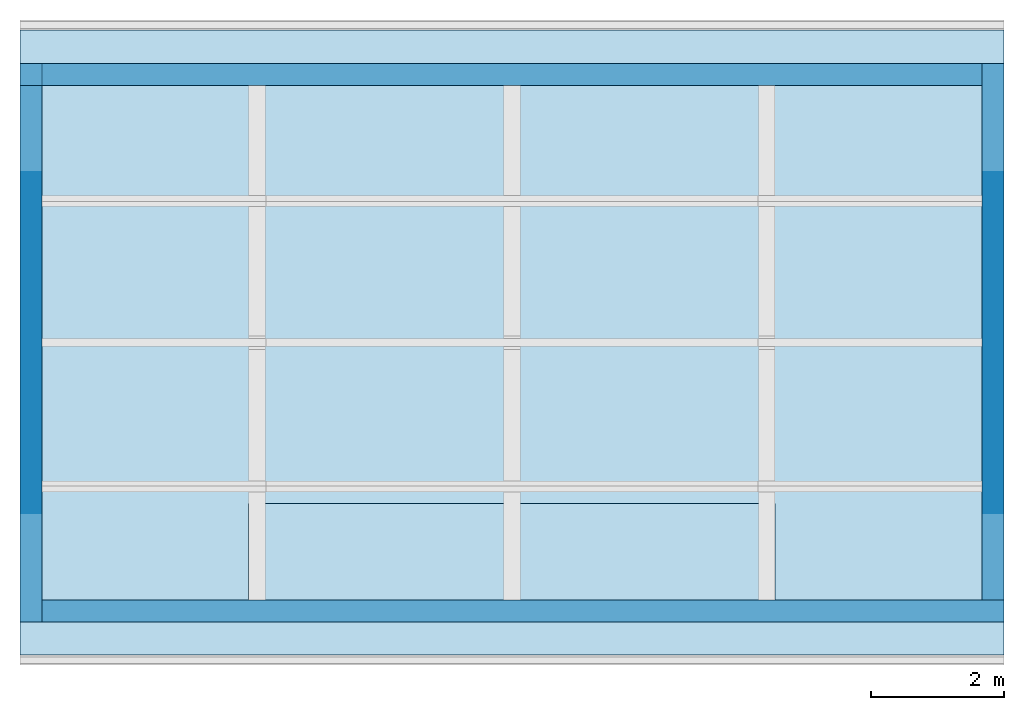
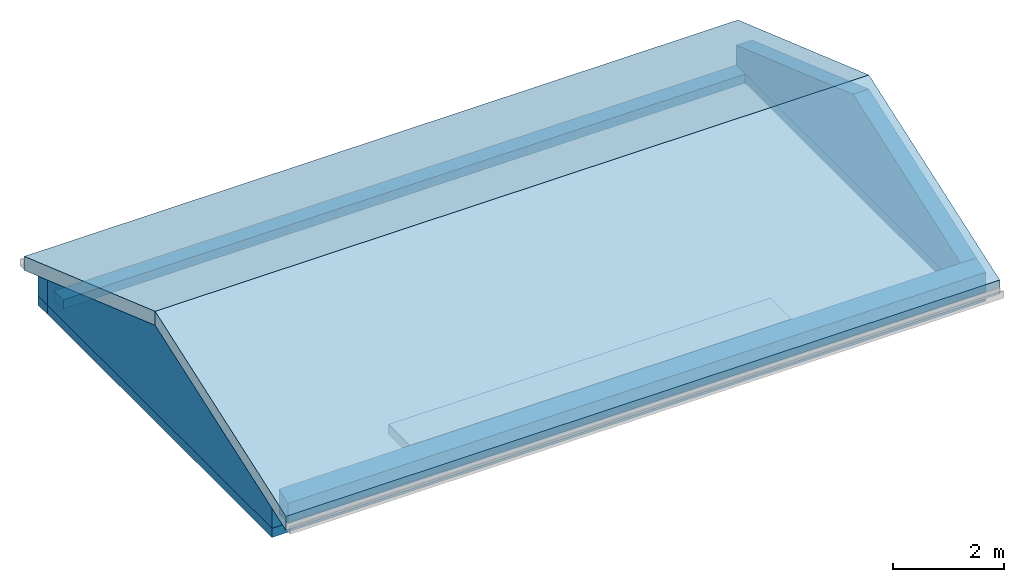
# One storey, part 1 of 3: 9 walls, 3 slabs, 1 element without a shape of its own.
"""IFC2X3 building model written with IfcOpenShell, lengths in metres."""

from ifc_helpers import new_model, entity, si_unit, converted_unit, derived_unit, direction, frame, frame_2d, origin, origin_2d_with_axis, place, context, subcontext, project, spatial, polyline, rectangle, extrude, clip, bounded_halfspace, material, layer, layer_set, layer_usage, type_object, element, aggregate, save


model = new_model("IFC2X3")

# Units and contexts
model_context = context("Model", 3, precision=1e-05, world=origin(), true_north=direction((6.12303176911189e-17, 1.0)))
body_context = subcontext(model_context, "Body", "Model", "MODEL_VIEW")
ifc_project = project(units=[si_unit("LENGTHUNIT", "METRE"), si_unit("AREAUNIT", "SQUARE_METRE"), si_unit("VOLUMEUNIT", "CUBIC_METRE"), converted_unit("PLANEANGLEUNIT", "DEGREE", entity("IfcRatioMeasure", 0.0174532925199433), si_unit("PLANEANGLEUNIT", "RADIAN"), dimensions=[0, 0, 0, 0, 0, 0, 0]), si_unit("MASSUNIT", "GRAM", prefix="KILO"), derived_unit("MASSDENSITYUNIT", [(si_unit("MASSUNIT", "GRAM", prefix="KILO"), 1), (si_unit("LENGTHUNIT", "METRE"), -3)]), si_unit("TIMEUNIT", "SECOND"), si_unit("FREQUENCYUNIT", "HERTZ"), si_unit("THERMODYNAMICTEMPERATUREUNIT", "DEGREE_CELSIUS"), derived_unit("THERMALTRANSMITTANCEUNIT", [(si_unit("MASSUNIT", "GRAM", prefix="KILO"), 1), (si_unit("THERMODYNAMICTEMPERATUREUNIT", "KELVIN"), -1), (si_unit("TIMEUNIT", "SECOND"), -3)]), derived_unit("VOLUMETRICFLOWRATEUNIT", [(si_unit("LENGTHUNIT", "METRE"), 3), (si_unit("TIMEUNIT", "SECOND"), -1)]), si_unit("ELECTRICCURRENTUNIT", "AMPERE"), si_unit("ELECTRICVOLTAGEUNIT", "VOLT"), si_unit("POWERUNIT", "WATT"), si_unit("FORCEUNIT", "NEWTON", prefix="KILO"), si_unit("ILLUMINANCEUNIT", "LUX"), si_unit("LUMINOUSFLUXUNIT", "LUMEN"), si_unit("LUMINOUSINTENSITYUNIT", "CANDELA"), derived_unit("USERDEFINED", [(si_unit("MASSUNIT", "GRAM", prefix="KILO"), -1), (si_unit("LENGTHUNIT", "METRE"), -2), (si_unit("TIMEUNIT", "SECOND"), 3), (si_unit("LUMINOUSFLUXUNIT", "LUMEN"), 1)]), derived_unit("LINEARVELOCITYUNIT", [(si_unit("LENGTHUNIT", "METRE"), 1), (si_unit("TIMEUNIT", "SECOND"), -1)]), si_unit("PRESSUREUNIT", "PASCAL"), derived_unit("USERDEFINED", [(si_unit("LENGTHUNIT", "METRE"), -2), (si_unit("MASSUNIT", "GRAM", prefix="KILO"), 1), (si_unit("TIMEUNIT", "SECOND"), -2)])], contexts=[model_context])

# Site, building, storey
site_placement = place(None, origin())
site = spatial("IfcSite", under=ifc_project, at=site_placement, Name="Surface", CompositionType="ELEMENT")
building_placement = place(site_placement, origin())
building = spatial("IfcBuilding", under=site, at=building_placement, CompositionType="ELEMENT")
storey_placement = place(building_placement, frame((0.0, 0.0, 5.8)))
storey = spatial("IfcBuildingStorey", under=building, at=storey_placement, Name="1er Chainage", CompositionType="ELEMENT", Elevation=5.8)

# Roof, slabs
roof_placement = place(storey_placement, frame((-5.00248888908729, -1.02298932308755, 0.460000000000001)))
roof = element("IfcRoof", 1, at=roof_placement, inside=storey, Name="Toit de base:Panneau toiture", ObjectType="Toit de base:Panneau toiture", ShapeType="NOTDEFINED")
ifc_material_1 = material(Name="Tuiles")
ifc_layer_1 = layer(ifc_material_1, 0.05)
ifc_material_2 = material(Name="Bois - Bois de construction de dimensions courantes")
ifc_layer_2 = layer(ifc_material_2, 0.02)
ifc_material_3 = material(Name="Laine de roche")
ifc_layer_3 = layer(ifc_material_3, 0.2)
ifc_layer_4 = layer(ifc_material_2, 0.02)
ifc_layer_set_1 = layer_set([ifc_layer_1, ifc_layer_2, ifc_layer_3, ifc_layer_4], Name="Toit de base:Panneau toiture")
slab_1_placement = place(roof_placement, origin())
slab_1 = element("IfcSlab", 2, at=slab_1_placement, material=ifc_layer_set_1, Name="Toit de base:Panneau toiture", ObjectType="Toit de base:Panneau toiture", PredefinedType="ROOF", context=body_context, shape_type="SweptSolid", body=[
    extrude(rectangle(XDim=14.8, YDim=4.97955931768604, at=frame_2d((0.0, -2.22044604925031e-16), x_axis=(1.0, 0.0))), frame((7.4, 7.05000000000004, 0.822497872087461), z_axis=(0.0, 0.330349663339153, 0.943858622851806), x_axis=(1.0, 0.0, 0.0)), (0.0, -0.330349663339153, 0.943858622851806), 0.307249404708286),
])
slab_2_placement = place(roof_placement, origin())
slab_2 = element("IfcSlab", 3, at=slab_2_placement, material=ifc_layer_set_1, Name="Toit de base:Panneau toiture", ObjectType="Toit de base:Panneau toiture", PredefinedType="ROOF", context=body_context, shape_type="SweptSolid", body=[
    extrude(rectangle(XDim=4.97955931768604, YDim=14.8, at=frame_2d((-1.33226762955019e-15, 0.0), x_axis=(0.0, 1.0))), frame((7.4, 2.35000000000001, 0.822497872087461), z_axis=(0.0, -0.330349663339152, 0.943858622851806), x_axis=(1.0, 0.0, 0.0)), (0.0, 0.330349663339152, 0.943858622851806), 0.307249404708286),
])
aggregate(roof, [slab_1, slab_2])

# Slab
ifc_material_4 = material(Name="Maçonnerie - Béton")
ifc_layer_5 = layer(ifc_material_4, 0.2)
ifc_material_5 = material(Name="Maçonnerie - Enduit")
ifc_layer_6 = layer(ifc_material_5, 0.02)
ifc_layer_set_2 = layer_set([ifc_layer_5, ifc_layer_6], Name="Sol:Dalle ba 20 + Enduit sf 2")
ifc_layer_usage_1 = layer_usage(ifc_layer_set_2, "AXIS3", "POSITIVE", 0.0)
slab_3_placement = place(storey_placement, origin())
element("IfcSlab", 4, at=slab_3_placement, inside=storey, material=ifc_layer_usage_1, Name="Sol:Dalle ba 20 + Enduit sf 2", ObjectType="Sol:Dalle ba 20 + Enduit sf 2", PredefinedType="FLOOR", context=body_context, shape_type="SweptSolid", body=[
    extrude(rectangle(XDim=1.44999999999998, YDim=7.920065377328, at=origin_2d_with_axis()), frame((2.39681118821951, 0.532010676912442, 0.2), z_axis=(0.0, 0.0, -1.0), x_axis=(0.0, 1.0, 0.0)), (0.0, 0.0, 1.0), 0.22),
])

# Walls
ifc_layer_7 = layer(ifc_material_5, 0.02)
ifc_material_6 = material(Name="Blocs béton manufacturés")
ifc_layer_8 = layer(ifc_material_6, 0.2)
ifc_material_7 = material(Name="vide")
ifc_layer_9 = layer(ifc_material_7, 0.01)
ifc_material_8 = material(Name="Maçonnerie - Isolant")
ifc_layer_10 = layer(ifc_material_8, 0.09)
ifc_material_9 = material(Name="Plâtre")
ifc_layer_11 = layer(ifc_material_9, 0.01)
ifc_layer_set_3 = layer_set([ifc_layer_7, ifc_layer_8, ifc_layer_9, ifc_layer_10, ifc_layer_11], Name="Mur de base:M7 Ext. Crépis 2 + BBMC 20 + Isolant 11")
ifc_layer_usage_2 = layer_usage(ifc_layer_set_3, "AXIS2", "NEGATIVE", 0.165)
wall_type_1 = type_object("IfcWallType", Name="Mur de base:M7 Ext. Crépis 2 + BBMC 20 + Isolant 11", PredefinedType="STANDARD", material=ifc_layer_set_3)
wall_1_placement = place(storey_placement, frame((-4.67248888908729, 7.7120106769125, 0.0)))
element("IfcWallStandardCase", 5, at=wall_1_placement, inside=storey, type_object=wall_type_1, material=ifc_layer_usage_2, Name="Mur de base:M7 Ext. Crépis 2 + BBMC 20 + Isolant 11", ObjectType="Mur de base:M7 Ext. Crépis 2 + BBMC 20 + Isolant 11", context=body_context, shape_type="SweptSolid", body=[
    extrude(rectangle(XDim=14.14, YDim=0.330000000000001, at=frame_2d((7.07, 0.0), x_axis=(-1.0, 0.0))), origin(), (0.0, 0.0, 1.0), 0.2),
])
ifc_layer_usage_3 = layer_usage(ifc_layer_set_3, "AXIS2", "NEGATIVE", 0.165)
wall_2_placement = place(storey_placement, frame((-5.00248888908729, 7.7120106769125, 0.2)))
element("IfcWallStandardCase", 6, at=wall_2_placement, inside=storey, type_object=wall_type_1, material=ifc_layer_usage_3, Name="Mur de base:M7 Ext. Crépis 2 + BBMC 20 + Isolant 11", ObjectType="Mur de base:M7 Ext. Crépis 2 + BBMC 20 + Isolant 11", context=body_context, shape_type="Clipping", body=[
    clip(extrude(rectangle(XDim=14.47, YDim=0.330000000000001, at=frame_2d((7.235, 0.0), x_axis=(-1.0, 0.0))), origin(), (0.0, 0.0, 1.0), 0.5504992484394), bounded_halfspace(frame((0.0, -0.164999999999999, 0.5504992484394), z_axis=(0.0, 0.330349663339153, 0.943858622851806), x_axis=(-1.0, 0.0, 0.0)), False, frame((0.0, -0.164999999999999, 0.5504992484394)), polyline([(0.0, 0.0), (0.33, 0.0), (14.47, 0.0), (14.47, 0.33), (0.0, 0.33), (0.0, 0.0)]))),
])
ifc_layer_usage_4 = layer_usage(ifc_layer_set_3, "AXIS2", "NEGATIVE", 0.165)
wall_3_placement = place(storey_placement, frame((-4.83748888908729, -0.522989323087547, 0.199999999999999), z_axis=(0.0, 0.0, 1.0), x_axis=(0.0, 1.0, 0.0)))
element("IfcWallStandardCase", 7, at=wall_3_placement, inside=storey, type_object=wall_type_1, material=ifc_layer_usage_4, Name="Mur de base:M7 Ext. Crépis 2 + BBMC 20 + Isolant 11", ObjectType="Mur de base:M7 Ext. Crépis 2 + BBMC 20 + Isolant 11", context=body_context, shape_type="Clipping", body=[
    clip(clip(extrude(rectangle(XDim=8.07000000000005, YDim=0.33, at=frame_2d((4.03500000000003, 0.0), x_axis=(-1.0, 0.0))), origin(), (0.0, 0.0, 1.0), 1.90499574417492), bounded_halfspace(frame((4.20000000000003, -0.165, 1.90499574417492), z_axis=(0.330349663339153, 0.0, 0.943858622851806), x_axis=(0.0, 1.0, 0.0)), False, frame((4.20000000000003, -0.165, 1.90499574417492)), polyline([(0.0, 0.0), (3.87000000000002, 0.0), (3.87000000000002, 0.33), (0.0, 0.33), (0.0, 0.0)]))), bounded_halfspace(frame((0.0, -0.165, 0.434999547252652), z_axis=(-0.330349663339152, 0.0, 0.943858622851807), x_axis=(0.0, -1.0, 0.0)), False, frame((0.0, -0.165, 0.434999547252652)), polyline([(0.0, 0.0), (0.330000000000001, 0.0), (4.20000000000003, 0.0), (4.20000000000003, 0.33), (0.0, 0.33), (0.0, 0.0)]))),
])
ifc_layer_usage_5 = layer_usage(ifc_layer_set_3, "AXIS2", "NEGATIVE", 0.165)
wall_4_placement = place(storey_placement, frame((9.7975111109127, -0.357989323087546, 0.2), z_axis=(0.0, 0.0, 1.0), x_axis=(-1.0, 0.0, 0.0)))
element("IfcWallStandardCase", 8, at=wall_4_placement, inside=storey, type_object=wall_type_1, material=ifc_layer_usage_5, Name="Mur de base:M7 Ext. Crépis 2 + BBMC 20 + Isolant 11", ObjectType="Mur de base:M7 Ext. Crépis 2 + BBMC 20 + Isolant 11", context=body_context, shape_type="Clipping", body=[
    clip(extrude(rectangle(XDim=14.47, YDim=0.33, at=frame_2d((7.235, 1.38777878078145e-17), x_axis=(-1.0, 0.0))), origin(), (0.0, 0.0, 1.0), 0.5504992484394), bounded_halfspace(frame((0.0, -0.165, 0.5504992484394), z_axis=(0.0, 0.330349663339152, 0.943858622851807), x_axis=(-1.0, 0.0, 0.0)), False, frame((0.0, -0.165, 0.5504992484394)), polyline([(0.0, 0.0), (0.330000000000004, 0.0), (14.47, 0.0), (14.47, 0.33), (0.0, 0.33), (0.0, 0.0)]))),
])
ifc_layer_usage_6 = layer_usage(ifc_layer_set_3, "AXIS2", "NEGATIVE", 0.165)
wall_5_placement = place(storey_placement, frame((9.6325111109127, 7.8770106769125, 0.199999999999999), z_axis=(0.0, 0.0, 1.0), x_axis=(0.0, -1.0, 0.0)))
element("IfcWallStandardCase", 9, at=wall_5_placement, inside=storey, type_object=wall_type_1, material=ifc_layer_usage_6, Name="Mur de base:M7 Ext. Crépis 2 + BBMC 20 + Isolant 11", ObjectType="Mur de base:M7 Ext. Crépis 2 + BBMC 20 + Isolant 11", context=body_context, shape_type="Clipping", body=[
    clip(clip(extrude(rectangle(XDim=8.07000000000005, YDim=0.329999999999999, at=frame_2d((4.03500000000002, -1.08246744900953e-15), x_axis=(-1.0, 0.0))), origin(), (0.0, 0.0, 1.0), 1.90499574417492), bounded_halfspace(frame((0.0, -0.165, 0.434999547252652), z_axis=(-0.330349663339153, 0.0, 0.943858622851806), x_axis=(0.0, -1.0, 0.0)), False, frame((0.0, -0.165, 0.434999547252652)), polyline([(0.0, 0.0), (0.33, 0.0), (4.20000000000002, 0.0), (4.20000000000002, 0.330000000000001), (0.0, 0.33), (0.0, 0.0)]))), bounded_halfspace(frame((4.20000000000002, -0.165000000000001, 1.90499574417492), z_axis=(0.330349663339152, 0.0, 0.943858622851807), x_axis=(0.0, 1.0, 0.0)), False, frame((4.20000000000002, -0.165000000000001, 1.90499574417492)), polyline([(0.0, 0.0), (3.87000000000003, 0.0), (3.87000000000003, 0.329999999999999), (0.0, 0.33), (0.0, 0.0)]))),
])
ifc_layer_12 = layer(ifc_material_5, 0.02)
ifc_layer_13 = layer(ifc_material_6, 0.05)
ifc_material_10 = material(Name="Béton - Béton coulé sur place")
ifc_layer_14 = layer(ifc_material_10, 0.15)
ifc_material_11 = material(Name="Mur par défaut")
ifc_layer_15 = layer(ifc_material_11, 0.01)
ifc_layer_16 = layer(ifc_material_8, 0.09)
ifc_material_12 = material(Name="Finition Peinture - Blanc satiné")
ifc_layer_17 = layer(ifc_material_12, 0.01)
ifc_layer_set_4 = layer_set([ifc_layer_12, ifc_layer_13, ifc_layer_14, ifc_layer_15, ifc_layer_16, ifc_layer_17], Name="Mur de base:Ext. Crépis 2 + Plan 5 + BA 15 + isol 11")
ifc_layer_usage_7 = layer_usage(ifc_layer_set_4, "AXIS2", "NEGATIVE", 0.165)
wall_type_2 = type_object("IfcWallType", Name="Mur de base:Ext. Crépis 2 + Plan 5 + BA 15 + isol 11", PredefinedType="STANDARD", material=ifc_layer_set_4)
wall_6_placement = place(storey_placement, frame((-5.00248888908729, 7.7120106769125, 0.0)))
element("IfcWallStandardCase", 10, at=wall_6_placement, inside=storey, type_object=wall_type_2, material=ifc_layer_usage_7, Name="Mur de base:Ext. Crépis 2 + Plan 5 + BA 15 + isol 11", ObjectType="Mur de base:Ext. Crépis 2 + Plan 5 + BA 15 + isol 11", context=body_context, shape_type="SweptSolid", body=[
    extrude(rectangle(XDim=14.47, YDim=0.330000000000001, at=frame_2d((7.235, 0.0), x_axis=(-1.0, 0.0))), origin(), (0.0, 0.0, 1.0), 0.2),
])
ifc_layer_usage_8 = layer_usage(ifc_layer_set_4, "AXIS2", "NEGATIVE", 0.165)
wall_7_placement = place(storey_placement, frame((-4.83748888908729, -0.522989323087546, 0.0), z_axis=(0.0, 0.0, 1.0), x_axis=(0.0, 1.0, 0.0)))
element("IfcWallStandardCase", 11, at=wall_7_placement, inside=storey, type_object=wall_type_2, material=ifc_layer_usage_8, Name="Mur de base:Ext. Crépis 2 + Plan 5 + BA 15 + isol 11", ObjectType="Mur de base:Ext. Crépis 2 + Plan 5 + BA 15 + isol 11", context=body_context, shape_type="SweptSolid", body=[
    extrude(rectangle(XDim=8.07000000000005, YDim=0.33, at=frame_2d((4.03500000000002, 0.0), x_axis=(-1.0, 0.0))), origin(), (0.0, 0.0, 1.0), 0.2),
])
ifc_layer_usage_9 = layer_usage(ifc_layer_set_4, "AXIS2", "NEGATIVE", 0.165)
wall_8_placement = place(storey_placement, frame((9.7975111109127, -0.357989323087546, 0.0), z_axis=(0.0, 0.0, 1.0), x_axis=(-1.0, 0.0, 0.0)))
element("IfcWallStandardCase", 12, at=wall_8_placement, inside=storey, type_object=wall_type_2, material=ifc_layer_usage_9, Name="Mur de base:Ext. Crépis 2 + Plan 5 + BA 15 + isol 11", ObjectType="Mur de base:Ext. Crépis 2 + Plan 5 + BA 15 + isol 11", context=body_context, shape_type="SweptSolid", body=[
    extrude(rectangle(XDim=14.47, YDim=0.33, at=frame_2d((7.235, 0.0), x_axis=(-1.0, 0.0))), origin(), (0.0, 0.0, 1.0), 0.2),
])
ifc_layer_usage_10 = layer_usage(ifc_layer_set_4, "AXIS2", "NEGATIVE", 0.165)
wall_9_placement = place(storey_placement, frame((9.6325111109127, 7.8770106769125, 0.0), z_axis=(0.0, 0.0, 1.0), x_axis=(0.0, -1.0, 0.0)))
element("IfcWallStandardCase", 13, at=wall_9_placement, inside=storey, type_object=wall_type_2, material=ifc_layer_usage_10, Name="Mur de base:Ext. Crépis 2 + Plan 5 + BA 15 + isol 11", ObjectType="Mur de base:Ext. Crépis 2 + Plan 5 + BA 15 + isol 11", context=body_context, shape_type="SweptSolid", body=[
    extrude(rectangle(XDim=8.07000000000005, YDim=0.330000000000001, at=frame_2d((4.03500000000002, 0.0), x_axis=(-1.0, 0.0))), origin(), (0.0, 0.0, 1.0), 0.2),
])

save(model, "model.ifc")
